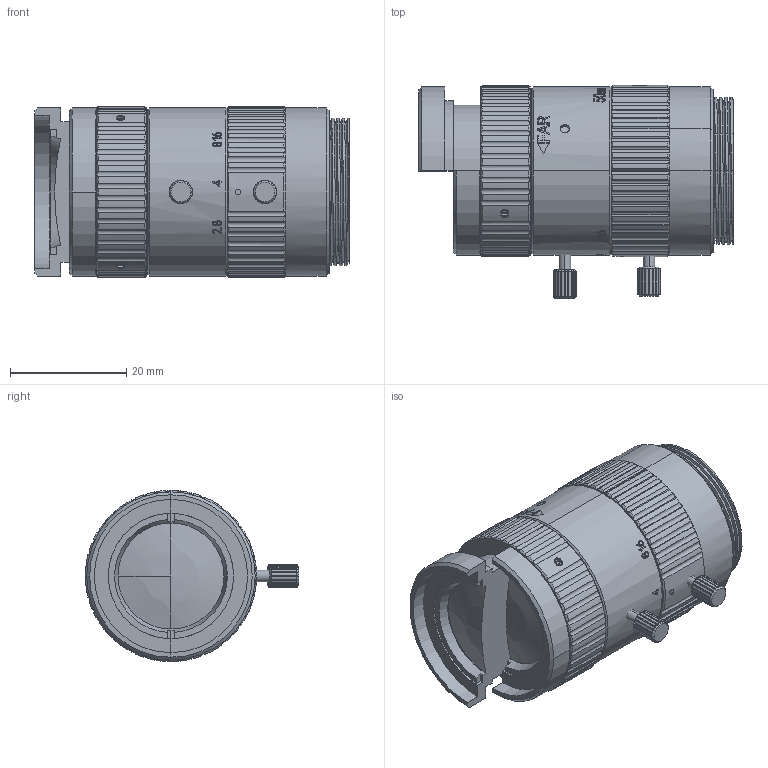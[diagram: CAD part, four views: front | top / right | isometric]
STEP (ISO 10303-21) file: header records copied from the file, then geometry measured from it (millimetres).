
FILE_DESCRIPTION (( 'STEP AP203' ), '1' );
FILE_NAME ('FAU5028MC.HR-H¶Ô°ë.STEP', '2025-07-05T04:22:09', ( '' ), ( '' ), 'SwSTEP 2.0', 'SolidWorks 2019', '' );
FILE_SCHEMA (( 'CONFIG_CONTROL_DESIGN' ));
Length unit declared in the file: millimetre
Products named in the file (9): ______-0.STEP; 5028______111.STEP; ______.STEP; ________.STEP; ____.STEP; FAU5028MC.HR-H勤圉; ____15^5028______________________.STEP; FAU5028MC.HR.STEP; 5028______123.STEP
Assembly tree (12 placements, depth 4):
  FAU5028MC.HR-H勤圉
    FAU5028MC.HR.STEP
      5028______111.STEP
        ______.STEP  x2
        ____.STEP  x2
        ________.STEP  x2
      5028______123.STEP
        ______-0.STEP
        ____.STEP
      ____15^5028______________________.STEP
Bounding box: 54.23 x 36.75 x 29.5 mm (x, y, z)
Volume: 29271.7 mm3; surface area: 11209.1 mm2
Topology: 9 solids, 10 shells, 1082 faces, 2937 edges, 1919 vertices
Faces by surface type: plane 422, cylinder 368, cone 148, bspline 136, sphere 8
Entity records: 50320 total; most frequent: CARTESIAN_POINT 27124, ORIENTED_EDGE 5102, DIRECTION 4033, EDGE_CURVE 2551, VERTEX_POINT 1670, AXIS2_PLACEMENT_3D 1597, EDGE_LOOP 997, FACE_OUTER_BOUND 944
